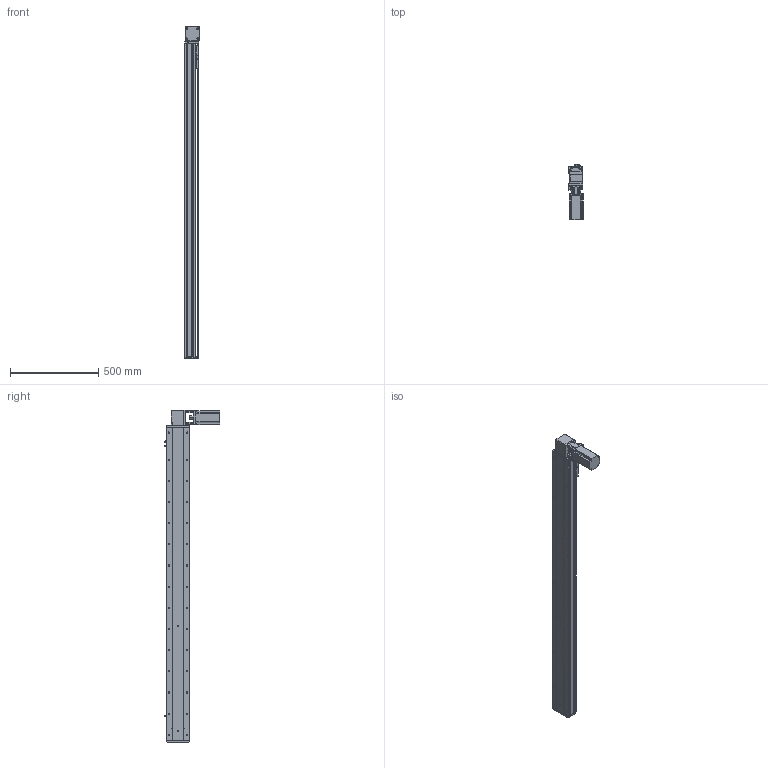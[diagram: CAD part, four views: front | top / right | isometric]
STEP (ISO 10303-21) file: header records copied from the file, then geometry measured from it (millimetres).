
FILE_DESCRIPTION (( 'STEP AP214' ), '1' );
FILE_NAME ('KSD130B-S1550-MRT-CM.STEP', '2019-11-16T05:06:53', ( '微软用户' ), ( '微软中国' ), 'SwSTEP 2.0', 'SolidWorks 2014', '' );
FILE_SCHEMA (( 'AUTOMOTIVE_DESIGN' ));
Length unit declared in the file: millimetre
Products named in the file (12): 130宽马达安装板1-带电机座750W（1）; 覜茼え100遵圉猾敕; U倰嫖萇EEㄜSX672; 130宽安装板同步带带电机座750W; 130宽盖板半封闭同步带-1550行程; 130宽马达安装板同步带左-改; 130宽马达安装板同步带半封闭; 130宽同步带安装座半封闭; 130宽端盖同步带半封闭; 130宽底板半封闭同步带-1550行程; KSD130B-S1550-MRT-CM; 台达ECMA－C20807AS伺服电机
Assembly tree (13 placements, depth 2):
  KSD130B-S1550-MRT-CM
    130宽底板半封闭同步带-1550行程
    130宽端盖同步带半封闭
    130宽同步带安装座半封闭
    130宽马达安装板同步带半封闭
    130宽马达安装板同步带左-改
    130宽盖板半封闭同步带-1550行程
    130宽安装板同步带带电机座750W
    U倰嫖萇EEㄜSX672  x3
    覜茼え100遵圉猾敕
    130宽马达安装板1-带电机座750W（1）
    台达ECMA－C20807AS伺服电机
Bounding box: 81 x 316 x 1883 mm (x, y, z)
Volume: 6447706.7 mm3; surface area: 1767975.7 mm2
Topology: 14 solids, 14 shells, 1657 faces, 4792 edges, 3041 vertices
Faces by surface type: cylinder 815, plane 625, cone 217
Entity records: 55907 total; most frequent: CARTESIAN_POINT 10699, DIRECTION 8446, ORIENTED_EDGE 8148, EDGE_CURVE 4074, AXIS2_PLACEMENT_3D 3120, VERTEX_POINT 2665, VECTOR 2206, LINE 2206
